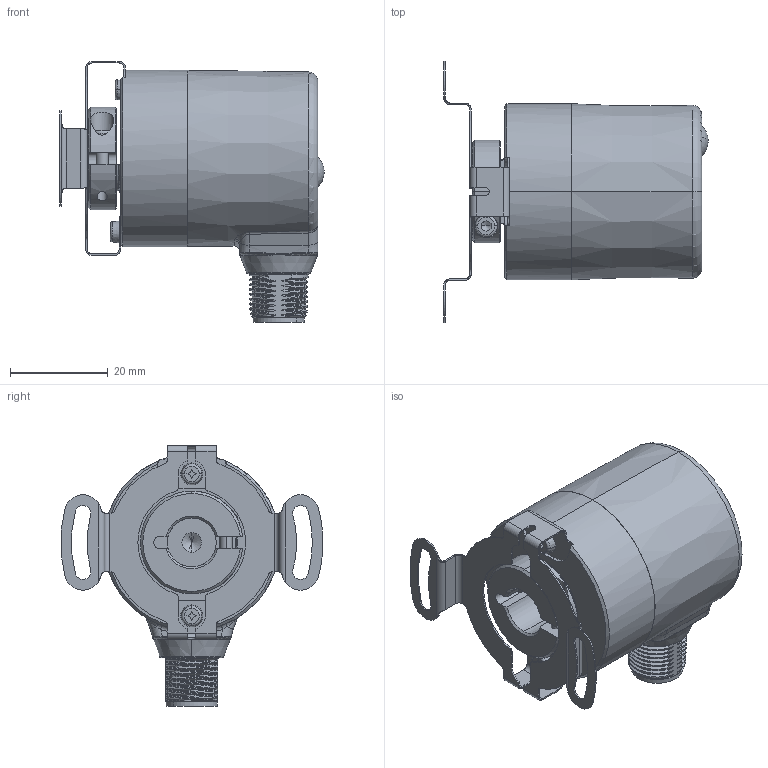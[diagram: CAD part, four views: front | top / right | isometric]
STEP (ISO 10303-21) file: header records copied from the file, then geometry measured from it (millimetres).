
FILE_DESCRIPTION (( 'STEP AP203' ), '1' );
FILE_NAME ('8.3671.56X4.XXXX.STEP', '2016-04-22T07:41:15', ( 'LauferA' ), ( 'Microsoft' ), 'SwSTEP 2.0', 'SolidWorks 2013', '' );
FILE_SCHEMA (( 'CONFIG_CONTROL_DESIGN' ));
Length unit declared in the file: millimetre
Products named in the file (1): 8.3671.56X4.XXXX
Bounding box: 53.99 x 53.5 x 53.3 mm (x, y, z)
Volume: 21956.9 mm3; surface area: 21977.7 mm2
Topology: 10 solids, 10 shells, 932 faces, 2278 edges, 1415 vertices
Faces by surface type: cylinder 288, plane 231, cone 159, bspline 137, torus 107, sphere 10
Entity records: 46888 total; most frequent: CARTESIAN_POINT 25780, ORIENTED_EDGE 4504, DIRECTION 4285, EDGE_CURVE 2252, AXIS2_PLACEMENT_3D 1739, VERTEX_POINT 1413, EDGE_LOOP 1025, CIRCLE 943
